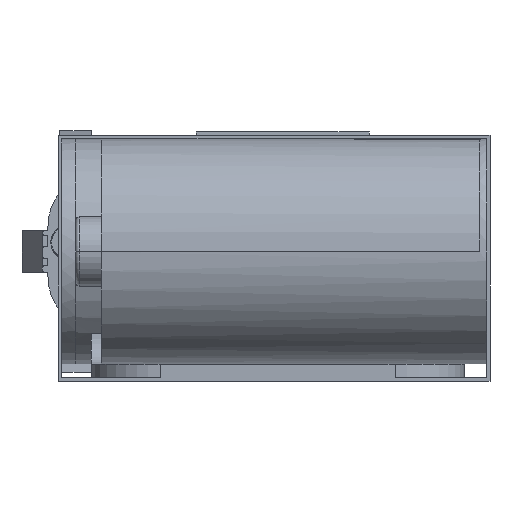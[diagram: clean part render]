
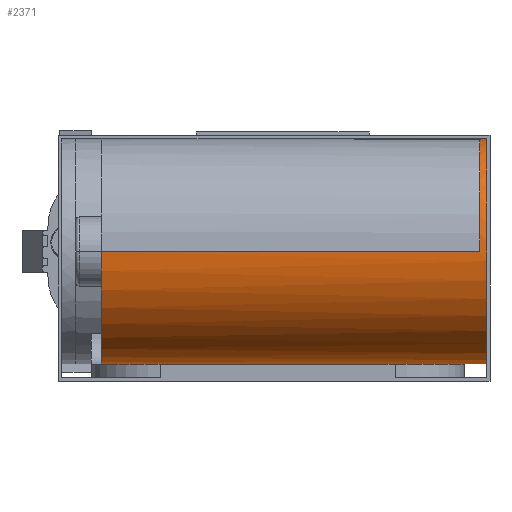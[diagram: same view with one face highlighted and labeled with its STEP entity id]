
A CAD part, left-side view. The second image highlights one B-rep face of the part: STEP entity #2371.
In plain terms, the highlighted cylindrical face has radius 16.3 mm (diameter 32.6 mm), a partial arc.
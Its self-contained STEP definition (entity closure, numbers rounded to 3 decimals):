
#472=CARTESIAN_POINT('',(16.3,0.5,18.8));
#473=DIRECTION('',(0.,1.,0.));
#474=DIRECTION('',(0.896,0.,-0.445));
#475=AXIS2_PLACEMENT_3D('',#472,#473,#474);
#477=DIRECTION('',(0.,1.,0.));
#478=VECTOR('',#477,1.);
#479=CARTESIAN_POINT('',(30.9,0.5,11.552));
#480=LINE('',#479,#478);
#481=CARTESIAN_POINT('',(16.3,1.5,18.8));
#482=DIRECTION('',(0.,1.,0.));
#483=DIRECTION('',(1.,0.,0.));
#484=AXIS2_PLACEMENT_3D('',#481,#482,#483);
#486=DIRECTION('',(0.,1.,0.));
#487=VECTOR('',#486,54.75);
#488=CARTESIAN_POINT('',(32.6,1.5,18.8));
#489=LINE('',#488,#487);
#490=DIRECTION('',(0.,-1.,0.));
#491=VECTOR('',#490,1.);
#492=CARTESIAN_POINT('',(30.9,1.5,26.048));
#493=LINE('',#492,#491);
#494=CARTESIAN_POINT('',(16.3,0.5,18.8));
#495=DIRECTION('',(0.,1.,0.));
#496=DIRECTION('',(0.,0.,1.));
#497=AXIS2_PLACEMENT_3D('',#494,#495,#496);
#499=CARTESIAN_POINT('',(16.3,0.5,18.8));
#500=DIRECTION('',(0.,1.,0.));
#501=DIRECTION('',(-0.577,0.,0.817));
#502=AXIS2_PLACEMENT_3D('',#499,#500,#501);
#504=CARTESIAN_POINT('',(16.3,0.5,18.8));
#505=DIRECTION('',(0.,-1.,0.));
#506=DIRECTION('',(-0.577,0.,0.817));
#507=AXIS2_PLACEMENT_3D('',#504,#505,#506);
#709=CARTESIAN_POINT('',(16.3,1.5,18.8));
#710=DIRECTION('',(0.,-1.,0.));
#711=DIRECTION('',(0.896,0.,0.445));
#712=AXIS2_PLACEMENT_3D('',#709,#710,#711);
#714=DIRECTION('',(0.,1.,0.));
#715=VECTOR('',#714,54.75);
#716=CARTESIAN_POINT('',(0.,1.5,18.8));
#717=LINE('',#716,#715);
#723=CARTESIAN_POINT('',(16.3,56.25,18.8));
#724=DIRECTION('',(0.,-1.,0.));
#725=DIRECTION('',(-1.,0.,0.));
#726=AXIS2_PLACEMENT_3D('',#723,#724,#725);
#1460=CARTESIAN_POINT('',(0.,56.25,18.8));
#1461=CARTESIAN_POINT('',(32.6,56.25,18.8));
#1462=VERTEX_POINT('',#1460);
#1463=VERTEX_POINT('',#1461);
#1728=CARTESIAN_POINT('',(30.9,1.5,26.048));
#1729=CARTESIAN_POINT('',(0.,1.5,18.8));
#1730=VERTEX_POINT('',#1728);
#1731=VERTEX_POINT('',#1729);
#1732=CARTESIAN_POINT('',(32.6,1.5,18.8));
#1733=CARTESIAN_POINT('',(30.9,1.5,11.552));
#1734=VERTEX_POINT('',#1732);
#1735=VERTEX_POINT('',#1733);
#1764=CARTESIAN_POINT('',(30.9,0.5,11.552));
#1765=CARTESIAN_POINT('',(6.9,0.5,5.483));
#1766=VERTEX_POINT('',#1764);
#1767=VERTEX_POINT('',#1765);
#1768=CARTESIAN_POINT('',(6.9,0.5,32.117));
#1769=CARTESIAN_POINT('',(16.3,0.5,35.1));
#1770=VERTEX_POINT('',#1768);
#1771=VERTEX_POINT('',#1769);
#1772=CARTESIAN_POINT('',(30.9,0.5,26.048));
#1773=VERTEX_POINT('',#1772);
#2345=CARTESIAN_POINT('',(16.3,1.5,18.8));
#2346=DIRECTION('',(0.,1.,0.));
#2347=DIRECTION('',(1.,0.,0.));
#2348=AXIS2_PLACEMENT_3D('',#2345,#2346,#2347);
#2349=CYLINDRICAL_SURFACE('',#2348,16.3);
#2350=ORIENTED_EDGE('',*,*,#2274,.F.);
#2352=ORIENTED_EDGE('',*,*,#2351,.T.);
#2354=ORIENTED_EDGE('',*,*,#2353,.F.);
#2356=ORIENTED_EDGE('',*,*,#2355,.T.);
#2358=ORIENTED_EDGE('',*,*,#2357,.F.);
#2360=ORIENTED_EDGE('',*,*,#2359,.F.);
#2362=ORIENTED_EDGE('',*,*,#2361,.F.);
#2364=ORIENTED_EDGE('',*,*,#2363,.T.);
#2365=ORIENTED_EDGE('',*,*,#2308,.F.);
#2366=ORIENTED_EDGE('',*,*,#2296,.F.);
#2368=ORIENTED_EDGE('',*,*,#2367,.T.);
#2369=EDGE_LOOP('',(#2350,#2352,#2354,#2356,#2358,#2360,#2362,#2364,#2365,#2366,
#2368));
#2370=FACE_OUTER_BOUND('',#2369,.F.);
#476=CIRCLE('',#475,16.3);
#485=CIRCLE('',#484,16.3);
#498=CIRCLE('',#497,16.3);
#503=CIRCLE('',#502,16.3);
#508=CIRCLE('',#507,16.3);
#713=CIRCLE('',#712,16.3);
#727=CIRCLE('',#726,16.3);
#2274=EDGE_CURVE('',#1766,#1767,#476,.T.);
#2296=EDGE_CURVE('',#1770,#1771,#503,.T.);
#2308=EDGE_CURVE('',#1771,#1773,#498,.T.);
#2351=EDGE_CURVE('',#1766,#1735,#480,.T.);
#2353=EDGE_CURVE('',#1734,#1735,#485,.T.);
#2355=EDGE_CURVE('',#1734,#1463,#489,.T.);
#2357=EDGE_CURVE('',#1462,#1463,#727,.T.);
#2359=EDGE_CURVE('',#1731,#1462,#717,.T.);
#2361=EDGE_CURVE('',#1730,#1731,#713,.T.);
#2363=EDGE_CURVE('',#1730,#1773,#493,.T.);
#2367=EDGE_CURVE('',#1770,#1767,#508,.T.);
#2371=ADVANCED_FACE('',(#2370),#2349,.T.);
